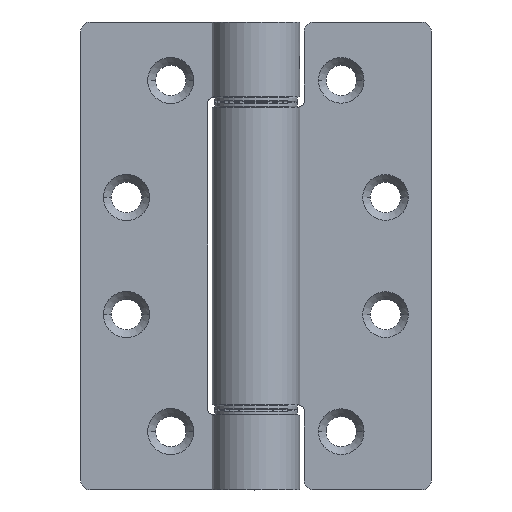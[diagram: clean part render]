
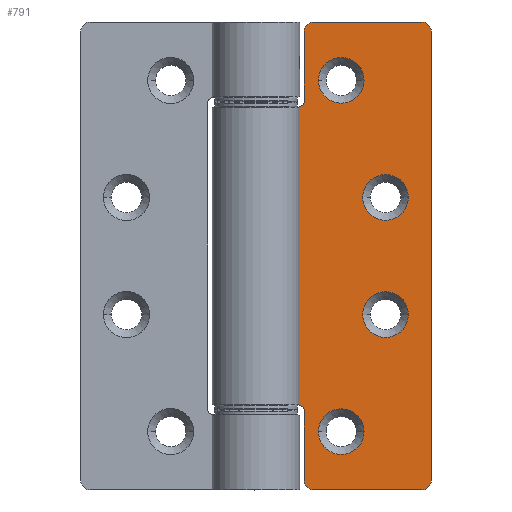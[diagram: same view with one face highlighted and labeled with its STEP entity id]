
A CAD part, top view. The second image highlights one B-rep face of the part: STEP entity #791.
In plain terms, the highlighted planar face has unit normal (0, 0, 1).
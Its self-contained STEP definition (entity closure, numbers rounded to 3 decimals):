
#5=DIRECTION('',(1.,0.,0.));
#6=VECTOR('',#5,23.5);
#7=CARTESIAN_POINT('',(12.5,-50.75,0.));
#8=LINE('',#7,#6);
#106=CARTESIAN_POINT('',(12.5,-48.75,0.));
#107=DIRECTION('',(0.,0.,1.));
#108=DIRECTION('',(-1.,0.,0.));
#109=AXIS2_PLACEMENT_3D('',#106,#107,#108);
#111=DIRECTION('',(0.,1.,0.));
#112=VECTOR('',#111,14.95);
#113=CARTESIAN_POINT('',(10.5,-48.75,0.));
#114=LINE('',#113,#112);
#115=DIRECTION('',(0.,-1.,0.));
#116=VECTOR('',#115,14.95);
#117=CARTESIAN_POINT('',(10.5,48.75,0.));
#118=LINE('',#117,#116);
#119=CARTESIAN_POINT('',(12.5,48.75,0.));
#120=DIRECTION('',(0.,0.,1.));
#121=DIRECTION('',(0.,1.,0.));
#122=AXIS2_PLACEMENT_3D('',#119,#120,#121);
#124=CARTESIAN_POINT('',(36.,48.75,0.));
#125=DIRECTION('',(0.,0.,1.));
#126=DIRECTION('',(1.,0.,0.));
#127=AXIS2_PLACEMENT_3D('',#124,#125,#126);
#129=CARTESIAN_POINT('',(36.,-48.75,0.));
#130=DIRECTION('',(0.,0.,1.));
#131=DIRECTION('',(0.,-1.,0.));
#132=AXIS2_PLACEMENT_3D('',#129,#130,#131);
#134=CARTESIAN_POINT('',(18.5,-38.1,0.));
#135=DIRECTION('',(0.,0.,-1.));
#136=DIRECTION('',(1.,0.,0.));
#137=AXIS2_PLACEMENT_3D('',#134,#135,#136);
#139=CARTESIAN_POINT('',(18.5,-38.1,0.));
#140=DIRECTION('',(0.,0.,-1.));
#141=DIRECTION('',(-1.,0.,0.));
#142=AXIS2_PLACEMENT_3D('',#139,#140,#141);
#144=CARTESIAN_POINT('',(28.1,-12.7,0.));
#145=DIRECTION('',(0.,0.,-1.));
#146=DIRECTION('',(1.,0.,0.));
#147=AXIS2_PLACEMENT_3D('',#144,#145,#146);
#149=CARTESIAN_POINT('',(28.1,-12.7,0.));
#150=DIRECTION('',(0.,0.,-1.));
#151=DIRECTION('',(-1.,0.,0.));
#152=AXIS2_PLACEMENT_3D('',#149,#150,#151);
#154=CARTESIAN_POINT('',(28.1,12.7,0.));
#155=DIRECTION('',(0.,0.,-1.));
#156=DIRECTION('',(1.,0.,0.));
#157=AXIS2_PLACEMENT_3D('',#154,#155,#156);
#159=CARTESIAN_POINT('',(28.1,12.7,0.));
#160=DIRECTION('',(0.,0.,-1.));
#161=DIRECTION('',(-1.,0.,0.));
#162=AXIS2_PLACEMENT_3D('',#159,#160,#161);
#164=CARTESIAN_POINT('',(18.5,38.1,0.));
#165=DIRECTION('',(0.,0.,-1.));
#166=DIRECTION('',(1.,0.,0.));
#167=AXIS2_PLACEMENT_3D('',#164,#165,#166);
#169=CARTESIAN_POINT('',(18.5,38.1,0.));
#170=DIRECTION('',(0.,0.,-1.));
#171=DIRECTION('',(-1.,0.,0.));
#172=AXIS2_PLACEMENT_3D('',#169,#170,#171);
#186=CARTESIAN_POINT('',(9.233,-32.318,0.));
#188=CARTESIAN_POINT('',(9.,-33.8,0.));
#189=DIRECTION('',(0.,0.,-1.));
#190=DIRECTION('',(0.155,0.988,0.));
#191=AXIS2_PLACEMENT_3D('',#188,#189,#190);
#204=DIRECTION('',(0.,-1.,0.));
#205=VECTOR('',#204,64.636);
#206=CARTESIAN_POINT('',(9.233,32.318,0.));
#207=LINE('',#206,#205);
#236=CARTESIAN_POINT('',(9.,33.8,0.));
#237=DIRECTION('',(0.,0.,-1.));
#238=DIRECTION('',(1.,0.,0.));
#239=AXIS2_PLACEMENT_3D('',#236,#237,#238);
#395=DIRECTION('',(1.,0.,0.));
#396=VECTOR('',#395,23.5);
#397=CARTESIAN_POINT('',(12.5,50.75,0.));
#398=LINE('',#397,#396);
#407=DIRECTION('',(0.,1.,0.));
#408=VECTOR('',#407,97.5);
#409=CARTESIAN_POINT('',(38.,-48.75,0.));
#410=LINE('',#409,#408);
#506=CARTESIAN_POINT('',(38.,48.75,0.));
#507=VERTEX_POINT('',#506);
#508=CARTESIAN_POINT('',(36.,50.75,0.));
#509=VERTEX_POINT('',#508);
#510=CARTESIAN_POINT('',(36.,-50.75,0.));
#511=CARTESIAN_POINT('',(38.,-48.75,0.));
#512=VERTEX_POINT('',#510);
#513=VERTEX_POINT('',#511);
#558=CARTESIAN_POINT('',(10.5,33.8,0.));
#559=CARTESIAN_POINT('',(9.233,32.318,0.));
#560=VERTEX_POINT('',#558);
#561=VERTEX_POINT('',#559);
#565=VERTEX_POINT('',#186);
#566=CARTESIAN_POINT('',(10.5,-33.8,0.));
#567=VERTEX_POINT('',#566);
#576=CARTESIAN_POINT('',(10.5,-48.75,0.));
#577=VERTEX_POINT('',#576);
#578=CARTESIAN_POINT('',(12.5,-50.75,0.));
#579=VERTEX_POINT('',#578);
#580=CARTESIAN_POINT('',(12.5,50.75,0.));
#581=CARTESIAN_POINT('',(10.5,48.75,0.));
#582=VERTEX_POINT('',#580);
#583=VERTEX_POINT('',#581);
#588=CARTESIAN_POINT('',(23.45,-38.1,0.));
#589=CARTESIAN_POINT('',(13.55,-38.1,0.));
#590=VERTEX_POINT('',#588);
#591=VERTEX_POINT('',#589);
#596=CARTESIAN_POINT('',(33.05,-12.7,0.));
#597=CARTESIAN_POINT('',(23.15,-12.7,0.));
#598=VERTEX_POINT('',#596);
#599=VERTEX_POINT('',#597);
#604=CARTESIAN_POINT('',(33.05,12.7,0.));
#605=CARTESIAN_POINT('',(23.15,12.7,0.));
#606=VERTEX_POINT('',#604);
#607=VERTEX_POINT('',#605);
#612=CARTESIAN_POINT('',(23.45,38.1,0.));
#613=CARTESIAN_POINT('',(13.55,38.1,0.));
#614=VERTEX_POINT('',#612);
#615=VERTEX_POINT('',#613);
#739=CARTESIAN_POINT('',(9.233,-50.75,0.));
#740=DIRECTION('',(0.,0.,1.));
#741=DIRECTION('',(1.,0.,0.));
#742=AXIS2_PLACEMENT_3D('',#739,#740,#741);
#743=PLANE('',#742);
#744=ORIENTED_EDGE('',*,*,#649,.F.);
#746=ORIENTED_EDGE('',*,*,#745,.T.);
#748=ORIENTED_EDGE('',*,*,#747,.F.);
#750=ORIENTED_EDGE('',*,*,#749,.F.);
#752=ORIENTED_EDGE('',*,*,#751,.F.);
#754=ORIENTED_EDGE('',*,*,#753,.F.);
#756=ORIENTED_EDGE('',*,*,#755,.F.);
#758=ORIENTED_EDGE('',*,*,#757,.T.);
#760=ORIENTED_EDGE('',*,*,#759,.F.);
#762=ORIENTED_EDGE('',*,*,#761,.F.);
#764=ORIENTED_EDGE('',*,*,#763,.F.);
#765=ORIENTED_EDGE('',*,*,#631,.F.);
#766=EDGE_LOOP('',(#744,#746,#748,#750,#752,#754,#756,#758,#760,#762,#764,
#765));
#767=FACE_OUTER_BOUND('',#766,.F.);
#769=ORIENTED_EDGE('',*,*,#768,.F.);
#771=ORIENTED_EDGE('',*,*,#770,.F.);
#772=EDGE_LOOP('',(#769,#771));
#773=FACE_BOUND('',#772,.F.);
#774=ORIENTED_EDGE('',*,*,#729,.F.);
#776=ORIENTED_EDGE('',*,*,#775,.F.);
#777=EDGE_LOOP('',(#774,#776));
#778=FACE_BOUND('',#777,.F.);
#780=ORIENTED_EDGE('',*,*,#779,.F.);
#782=ORIENTED_EDGE('',*,*,#781,.F.);
#783=EDGE_LOOP('',(#780,#782));
#784=FACE_BOUND('',#783,.F.);
#786=ORIENTED_EDGE('',*,*,#785,.F.);
#788=ORIENTED_EDGE('',*,*,#787,.F.);
#789=EDGE_LOOP('',(#786,#788));
#790=FACE_BOUND('',#789,.F.);
#791=ADVANCED_FACE('',(#767,#773,#778,#784,#790),#743,.T.);
#110=CIRCLE('',#109,2.);
#123=CIRCLE('',#122,2.);
#128=CIRCLE('',#127,2.);
#133=CIRCLE('',#132,2.);
#138=CIRCLE('',#137,4.95);
#143=CIRCLE('',#142,4.95);
#148=CIRCLE('',#147,4.95);
#153=CIRCLE('',#152,4.95);
#158=CIRCLE('',#157,4.95);
#163=CIRCLE('',#162,4.95);
#168=CIRCLE('',#167,4.95);
#173=CIRCLE('',#172,4.95);
#192=CIRCLE('',#191,1.5);
#240=CIRCLE('',#239,1.5);
#631=EDGE_CURVE('',#579,#512,#8,.T.);
#649=EDGE_CURVE('',#577,#579,#110,.T.);
#729=EDGE_CURVE('',#598,#599,#148,.T.);
#745=EDGE_CURVE('',#577,#567,#114,.T.);
#747=EDGE_CURVE('',#565,#567,#192,.T.);
#749=EDGE_CURVE('',#561,#565,#207,.T.);
#751=EDGE_CURVE('',#560,#561,#240,.T.);
#753=EDGE_CURVE('',#583,#560,#118,.T.);
#755=EDGE_CURVE('',#582,#583,#123,.T.);
#757=EDGE_CURVE('',#582,#509,#398,.T.);
#759=EDGE_CURVE('',#507,#509,#128,.T.);
#761=EDGE_CURVE('',#513,#507,#410,.T.);
#763=EDGE_CURVE('',#512,#513,#133,.T.);
#768=EDGE_CURVE('',#590,#591,#138,.T.);
#770=EDGE_CURVE('',#591,#590,#143,.T.);
#775=EDGE_CURVE('',#599,#598,#153,.T.);
#779=EDGE_CURVE('',#606,#607,#158,.T.);
#781=EDGE_CURVE('',#607,#606,#163,.T.);
#785=EDGE_CURVE('',#614,#615,#168,.T.);
#787=EDGE_CURVE('',#615,#614,#173,.T.);
